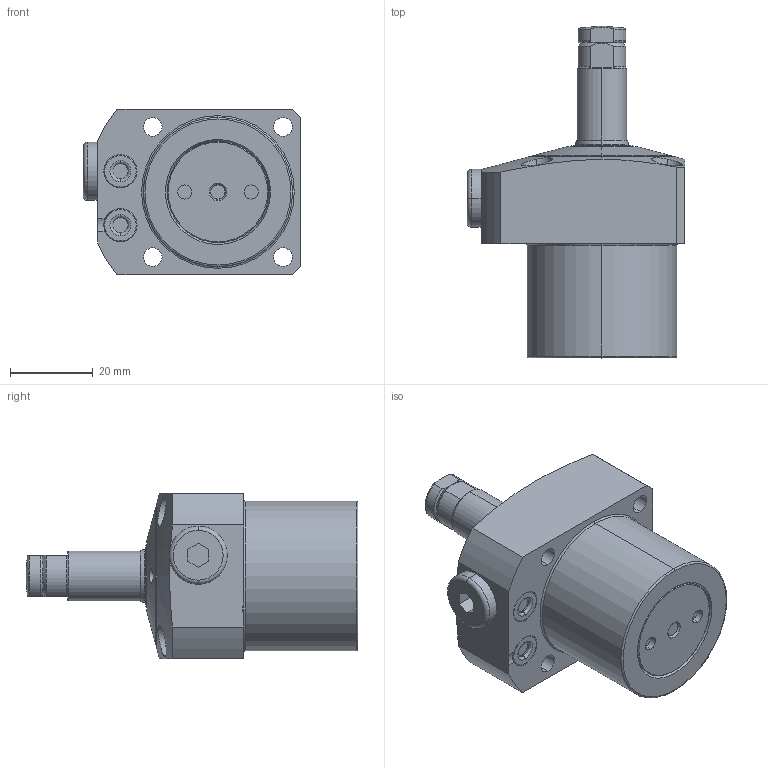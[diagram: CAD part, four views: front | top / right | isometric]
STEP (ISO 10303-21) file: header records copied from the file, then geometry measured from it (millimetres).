
FILE_DESCRIPTION(/* description */ (''),/* implementation_level */ '2;1');
FILE_NAME(/* name */ 'KFSS36-Q.stp',/* time_stamp */ '2026-02-06T10:49:39+08:00',/* author */ (''),/* organization */ (''),/* preprocessor_version */ 'ST-DEVELOPER v16.7',/* originating_system */ 'SIEMENS PLM Software NX 12.0',/* authorisation */ '');
FILE_SCHEMA (('AUTOMOTIVE_DESIGN { 1 0 10303 214 3 1 1 1 }'));
Length unit declared in the file: millimetre
Products named in the file (8): XLD-M8_Oring; XLD-M8_contactbolt; KFSS36-Q-02; KFSS36-Q-03; KFSS36-Q-05-P5; KFSS36-Q-01; KFSS36-Q-04; LC0363-C-EQ_step
Assembly tree (8 placements, depth 3):
  LC0363-C-EQ_step
    KFSS36-Q-01
    KFSS36-Q-05-P5  x2
    KFSS36-Q-03
    KFSS36-Q-02
    KFSS36-Q-04
      XLD-M8_contactbolt
      XLD-M8_Oring
Bounding box: 52.5 x 80 x 40 mm (x, y, z)
Volume: 67619.1 mm3; surface area: 15726.9 mm2
Topology: 7 solids, 7 shells, 238 faces, 518 edges, 314 vertices
Faces by surface type: cylinder 79, torus 60, plane 56, cone 41, sphere 2
Entity records: 6974 total; most frequent: CARTESIAN_POINT 1582, DIRECTION 1209, ORIENTED_EDGE 980, AXIS2_PLACEMENT_3D 524, EDGE_CURVE 490, VERTEX_POINT 300, CIRCLE 289, EDGE_LOOP 262
